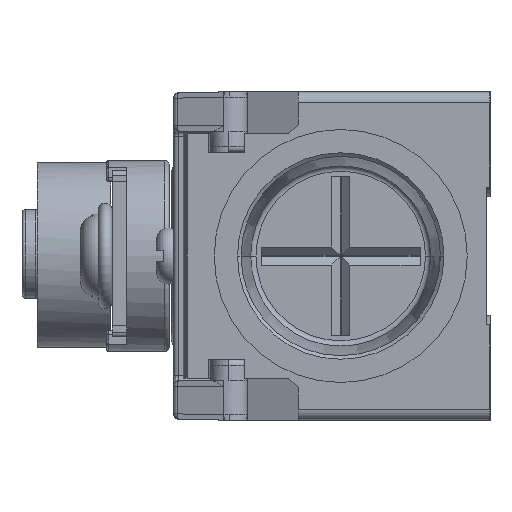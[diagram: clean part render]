
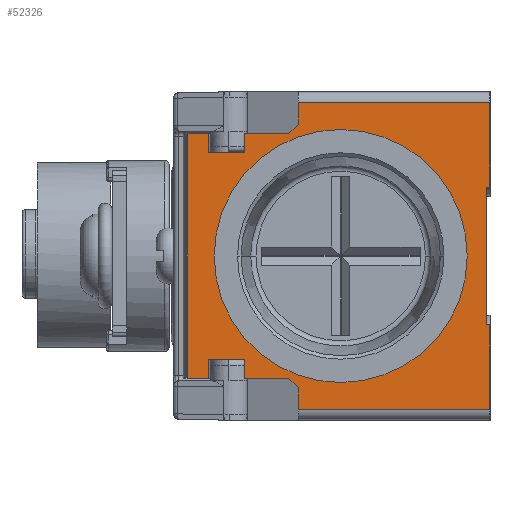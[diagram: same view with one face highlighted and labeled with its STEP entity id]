
A CAD part, left-side view. The second image highlights one B-rep face of the part: STEP entity #52326.
In plain terms, the highlighted planar face has unit normal (-1, 0, 0).
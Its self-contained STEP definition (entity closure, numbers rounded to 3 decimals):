
#49713 = VERTEX_POINT('',#49714);
#49714 = CARTESIAN_POINT('',(-5.868,-15.45,6.5));
#49720 = EDGE_CURVE('',#49721,#49713,#49723,.T.);
#49721 = VERTEX_POINT('',#49722);
#49722 = CARTESIAN_POINT('',(-5.868,-15.45,-6.5));
#49723 = LINE('',#49724,#49725);
#49724 = CARTESIAN_POINT('',(-5.868,-15.45,-6.5));
#49725 = VECTOR('',#49726,1.);
#49726 = DIRECTION('',(0.,0.,1.));
#51051 = VERTEX_POINT('',#51052);
#51052 = CARTESIAN_POINT('',(-5.868,-15.75,-6.5));
#51058 = EDGE_CURVE('',#51059,#51051,#51061,.T.);
#51059 = VERTEX_POINT('',#51060);
#51060 = CARTESIAN_POINT('',(-5.868,-15.75,-14.5));
#51061 = LINE('',#51062,#51063);
#51062 = CARTESIAN_POINT('',(-5.868,-15.75,-14.5));
#51063 = VECTOR('',#51064,1.);
#51064 = DIRECTION('',(0.,0.,1.));
#51358 = VERTEX_POINT('',#51359);
#51359 = CARTESIAN_POINT('',(-5.868,3.25,11.55));
#51365 = EDGE_CURVE('',#51366,#51358,#51368,.T.);
#51366 = VERTEX_POINT('',#51367);
#51367 = CARTESIAN_POINT('',(-5.868,2.35,12.45));
#51368 = LINE('',#51369,#51370);
#51369 = CARTESIAN_POINT('',(-5.868,2.35,12.45));
#51370 = VECTOR('',#51371,1.);
#51371 = DIRECTION('',(0.,0.707,-0.707));
#51391 = EDGE_CURVE('',#51366,#51392,#51394,.T.);
#51392 = VERTEX_POINT('',#51393);
#51393 = CARTESIAN_POINT('',(-5.868,2.35,14.5));
#51394 = LINE('',#51395,#51396);
#51395 = CARTESIAN_POINT('',(-5.868,2.35,12.45));
#51396 = VECTOR('',#51397,1.);
#51397 = DIRECTION('',(0.,0.,1.));
#51414 = EDGE_CURVE('',#51415,#51417,#51419,.T.);
#51415 = VERTEX_POINT('',#51416);
#51416 = CARTESIAN_POINT('',(-5.868,2.35,-14.5));
#51417 = VERTEX_POINT('',#51418);
#51418 = CARTESIAN_POINT('',(-5.868,2.35,-12.45));
#51419 = LINE('',#51420,#51421);
#51420 = CARTESIAN_POINT('',(-5.868,2.35,-14.5));
#51421 = VECTOR('',#51422,1.);
#51422 = DIRECTION('',(0.,0.,1.));
#51447 = EDGE_CURVE('',#51448,#51392,#51450,.T.);
#51448 = VERTEX_POINT('',#51449);
#51449 = CARTESIAN_POINT('',(-5.868,-15.75,14.5));
#51450 = LINE('',#51451,#51452);
#51451 = CARTESIAN_POINT('',(-5.868,-15.75,14.5));
#51452 = VECTOR('',#51453,1.);
#51453 = DIRECTION('',(0.,1.,0.));
#51559 = EDGE_CURVE('',#51448,#51560,#51562,.T.);
#51560 = VERTEX_POINT('',#51561);
#51561 = CARTESIAN_POINT('',(-5.868,-15.75,6.5));
#51562 = LINE('',#51563,#51564);
#51563 = CARTESIAN_POINT('',(-5.868,-15.75,14.5));
#51564 = VECTOR('',#51565,1.);
#51565 = DIRECTION('',(0.,0.,-1.));
#52315 = EDGE_CURVE('',#49713,#51560,#52316,.T.);
#52316 = LINE('',#52317,#52318);
#52317 = CARTESIAN_POINT('',(-5.868,-15.45,6.5));
#52318 = VECTOR('',#52319,1.);
#52319 = DIRECTION('',(0.,-1.,0.));
#52326 = ADVANCED_FACE('',(#52327,#52443),#52463,.T.);
#52327 = FACE_BOUND('',#52328,.T.);
#52328 = EDGE_LOOP('',(#52329,#52330,#52331,#52339,#52347,#52355,#52363,
    #52371,#52379,#52387,#52395,#52403,#52411,#52419,#52425,#52426,
    #52432,#52433,#52439,#52440,#52441,#52442));
#52329 = ORIENTED_EDGE('',*,*,#51391,.F.);
#52330 = ORIENTED_EDGE('',*,*,#51365,.T.);
#52331 = ORIENTED_EDGE('',*,*,#52332,.F.);
#52332 = EDGE_CURVE('',#52333,#51358,#52335,.T.);
#52333 = VERTEX_POINT('',#52334);
#52334 = CARTESIAN_POINT('',(-5.868,7.4,11.55));
#52335 = LINE('',#52336,#52337);
#52336 = CARTESIAN_POINT('',(-5.868,7.4,11.55));
#52337 = VECTOR('',#52338,1.);
#52338 = DIRECTION('',(0.,-1.,0.));
#52339 = ORIENTED_EDGE('',*,*,#52340,.F.);
#52340 = EDGE_CURVE('',#52341,#52333,#52343,.T.);
#52341 = VERTEX_POINT('',#52342);
#52342 = CARTESIAN_POINT('',(-5.868,7.4,9.75));
#52343 = LINE('',#52344,#52345);
#52344 = CARTESIAN_POINT('',(-5.868,7.4,9.75));
#52345 = VECTOR('',#52346,1.);
#52346 = DIRECTION('',(0.,0.,1.));
#52347 = ORIENTED_EDGE('',*,*,#52348,.T.);
#52348 = EDGE_CURVE('',#52341,#52349,#52351,.T.);
#52349 = VERTEX_POINT('',#52350);
#52350 = CARTESIAN_POINT('',(-5.868,10.8,9.75));
#52351 = LINE('',#52352,#52353);
#52352 = CARTESIAN_POINT('',(-5.868,7.4,9.75));
#52353 = VECTOR('',#52354,1.);
#52354 = DIRECTION('',(0.,1.,0.));
#52355 = ORIENTED_EDGE('',*,*,#52356,.T.);
#52356 = EDGE_CURVE('',#52349,#52357,#52359,.T.);
#52357 = VERTEX_POINT('',#52358);
#52358 = CARTESIAN_POINT('',(-5.868,10.8,11.55));
#52359 = LINE('',#52360,#52361);
#52360 = CARTESIAN_POINT('',(-5.868,10.8,9.75));
#52361 = VECTOR('',#52362,1.);
#52362 = DIRECTION('',(0.,0.,1.));
#52363 = ORIENTED_EDGE('',*,*,#52364,.F.);
#52364 = EDGE_CURVE('',#52365,#52357,#52367,.T.);
#52365 = VERTEX_POINT('',#52366);
#52366 = CARTESIAN_POINT('',(-5.868,12.85,11.55));
#52367 = LINE('',#52368,#52369);
#52368 = CARTESIAN_POINT('',(-5.868,12.85,11.55));
#52369 = VECTOR('',#52370,1.);
#52370 = DIRECTION('',(0.,-1.,0.));
#52371 = ORIENTED_EDGE('',*,*,#52372,.T.);
#52372 = EDGE_CURVE('',#52365,#52373,#52375,.T.);
#52373 = VERTEX_POINT('',#52374);
#52374 = CARTESIAN_POINT('',(-5.868,12.85,-11.55));
#52375 = LINE('',#52376,#52377);
#52376 = CARTESIAN_POINT('',(-5.868,12.85,11.55));
#52377 = VECTOR('',#52378,1.);
#52378 = DIRECTION('',(0.,0.,-1.));
#52379 = ORIENTED_EDGE('',*,*,#52380,.T.);
#52380 = EDGE_CURVE('',#52373,#52381,#52383,.T.);
#52381 = VERTEX_POINT('',#52382);
#52382 = CARTESIAN_POINT('',(-5.868,10.8,-11.55));
#52383 = LINE('',#52384,#52385);
#52384 = CARTESIAN_POINT('',(-5.868,12.85,-11.55));
#52385 = VECTOR('',#52386,1.);
#52386 = DIRECTION('',(0.,-1.,0.));
#52387 = ORIENTED_EDGE('',*,*,#52388,.F.);
#52388 = EDGE_CURVE('',#52389,#52381,#52391,.T.);
#52389 = VERTEX_POINT('',#52390);
#52390 = CARTESIAN_POINT('',(-5.868,10.8,-9.75));
#52391 = LINE('',#52392,#52393);
#52392 = CARTESIAN_POINT('',(-5.868,10.8,-9.75));
#52393 = VECTOR('',#52394,1.);
#52394 = DIRECTION('',(0.,0.,-1.));
#52395 = ORIENTED_EDGE('',*,*,#52396,.F.);
#52396 = EDGE_CURVE('',#52397,#52389,#52399,.T.);
#52397 = VERTEX_POINT('',#52398);
#52398 = CARTESIAN_POINT('',(-5.868,7.4,-9.75));
#52399 = LINE('',#52400,#52401);
#52400 = CARTESIAN_POINT('',(-5.868,7.4,-9.75));
#52401 = VECTOR('',#52402,1.);
#52402 = DIRECTION('',(0.,1.,0.));
#52403 = ORIENTED_EDGE('',*,*,#52404,.T.);
#52404 = EDGE_CURVE('',#52397,#52405,#52407,.T.);
#52405 = VERTEX_POINT('',#52406);
#52406 = CARTESIAN_POINT('',(-5.868,7.4,-11.55));
#52407 = LINE('',#52408,#52409);
#52408 = CARTESIAN_POINT('',(-5.868,7.4,-9.75));
#52409 = VECTOR('',#52410,1.);
#52410 = DIRECTION('',(0.,0.,-1.));
#52411 = ORIENTED_EDGE('',*,*,#52412,.T.);
#52412 = EDGE_CURVE('',#52405,#52413,#52415,.T.);
#52413 = VERTEX_POINT('',#52414);
#52414 = CARTESIAN_POINT('',(-5.868,3.25,-11.55));
#52415 = LINE('',#52416,#52417);
#52416 = CARTESIAN_POINT('',(-5.868,7.4,-11.55));
#52417 = VECTOR('',#52418,1.);
#52418 = DIRECTION('',(0.,-1.,0.));
#52419 = ORIENTED_EDGE('',*,*,#52420,.T.);
#52420 = EDGE_CURVE('',#52413,#51417,#52421,.T.);
#52421 = LINE('',#52422,#52423);
#52422 = CARTESIAN_POINT('',(-5.868,3.25,-11.55));
#52423 = VECTOR('',#52424,1.);
#52424 = DIRECTION('',(0.,-0.707,-0.707));
#52425 = ORIENTED_EDGE('',*,*,#51414,.F.);
#52426 = ORIENTED_EDGE('',*,*,#52427,.T.);
#52427 = EDGE_CURVE('',#51415,#51059,#52428,.T.);
#52428 = LINE('',#52429,#52430);
#52429 = CARTESIAN_POINT('',(-5.868,2.35,-14.5));
#52430 = VECTOR('',#52431,1.);
#52431 = DIRECTION('',(0.,-1.,0.));
#52432 = ORIENTED_EDGE('',*,*,#51058,.T.);
#52433 = ORIENTED_EDGE('',*,*,#52434,.F.);
#52434 = EDGE_CURVE('',#49721,#51051,#52435,.T.);
#52435 = LINE('',#52436,#52437);
#52436 = CARTESIAN_POINT('',(-5.868,-15.45,-6.5));
#52437 = VECTOR('',#52438,1.);
#52438 = DIRECTION('',(0.,-1.,0.));
#52439 = ORIENTED_EDGE('',*,*,#49720,.T.);
#52440 = ORIENTED_EDGE('',*,*,#52315,.T.);
#52441 = ORIENTED_EDGE('',*,*,#51559,.F.);
#52442 = ORIENTED_EDGE('',*,*,#51447,.T.);
#52443 = FACE_BOUND('',#52444,.T.);
#52444 = EDGE_LOOP('',(#52445,#52456));
#52445 = ORIENTED_EDGE('',*,*,#52446,.F.);
#52446 = EDGE_CURVE('',#52447,#52449,#52451,.T.);
#52447 = VERTEX_POINT('',#52448);
#52448 = CARTESIAN_POINT('',(-5.868,-1.65,-9.75));
#52449 = VERTEX_POINT('',#52450);
#52450 = CARTESIAN_POINT('',(-5.868,-1.65,9.75));
#52451 = CIRCLE('',#52452,9.75);
#52452 = AXIS2_PLACEMENT_3D('',#52453,#52454,#52455);
#52453 = CARTESIAN_POINT('',(-5.868,-1.65,0.)
  );
#52454 = DIRECTION('',(-1.,0.,0.));
#52455 = DIRECTION('',(0.,0.,-1.));
#52456 = ORIENTED_EDGE('',*,*,#52457,.F.);
#52457 = EDGE_CURVE('',#52449,#52447,#52458,.T.);
#52458 = CIRCLE('',#52459,9.75);
#52459 = AXIS2_PLACEMENT_3D('',#52460,#52461,#52462);
#52460 = CARTESIAN_POINT('',(-5.868,-1.65,0.)
  );
#52461 = DIRECTION('',(-1.,0.,0.));
#52462 = DIRECTION('',(0.,0.,1.));
#52463 = PLANE('',#52464);
#52464 = AXIS2_PLACEMENT_3D('',#52465,#52466,#52467);
#52465 = CARTESIAN_POINT('',(-5.868,9.35,-15.5));
#52466 = DIRECTION('',(-1.,0.,0.));
#52467 = DIRECTION('',(0.,0.,-1.));
